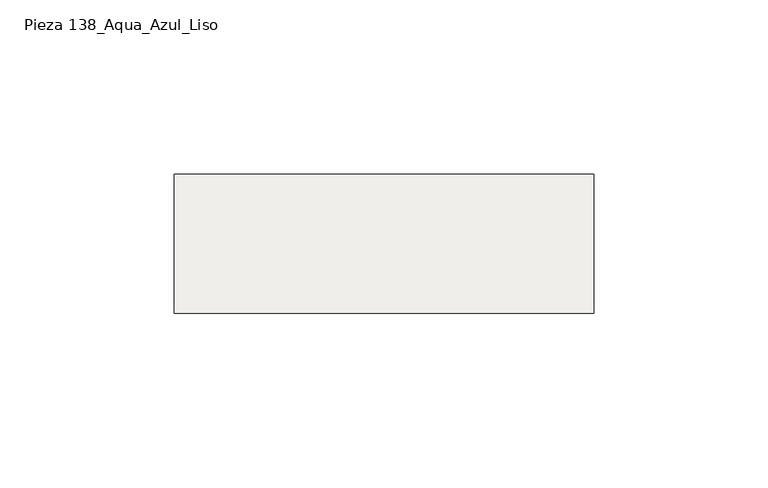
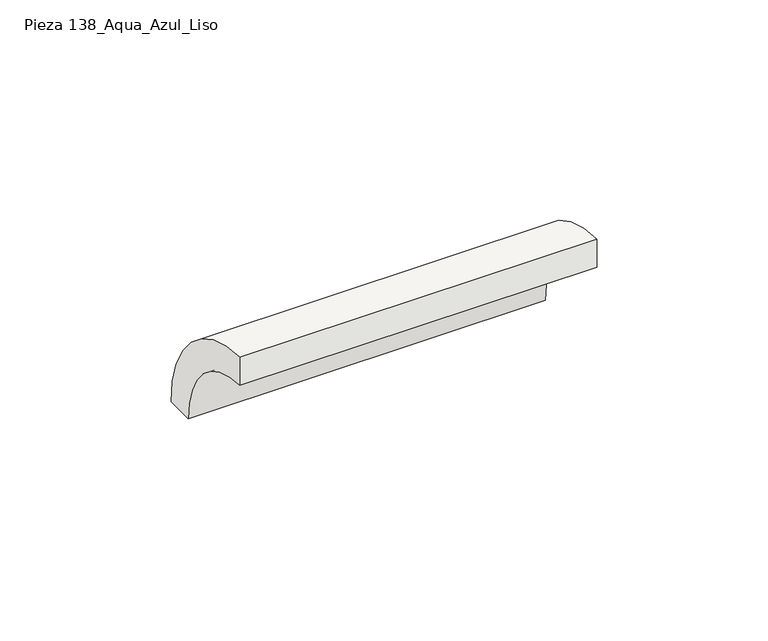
"""IFC4 building model written with IfcOpenShell, lengths in millimetres: slab geometry, ROSA GRES_138 : Pieza 138_Aqua_Azul_Liso."""

import ifcopenshell
import ifcopenshell.guid

model = None  # the IFC model being written
_history = None  # IfcOwnerHistory: only IFC2X3 demands one
_inside = {}  # id of a spatial element -> (the spatial element, [elements in it])
_under = {}  # id of a project, library or spatial element -> (it, [spatial elements below it])
_declared = {}  # id of a project -> (the project, [libraries it declares])
_typed = {}  # id of a type object -> (the type object, [elements of that type])
_made_of = {}  # id of a material, layer set ... -> (it, [elements and type objects made of it])


def new_model(schema):
    """Start an empty IFC model of exactly this schema.

    Asked for "IFC4X3", IfcOpenShell would pick the latest addendum, in which some entities
    have other attributes; the version numbers below select the first issue.
    IFC2X3 requires an IfcOwnerHistory on every rooted entity: one is made here for all.
    """
    global model, _history
    if schema == "IFC4X3":
        model = ifcopenshell.file(schema_version=(4, 3, 0, 0))
    else:
        model = ifcopenshell.file(schema=schema)
    _inside.clear()
    _under.clear()
    _declared.clear()
    _typed.clear()
    _made_of.clear()
    _history = None
    if model.schema == "IFC2X3":
        org = make("IfcOrganization", Name="unknown")
        user = make(
            "IfcPersonAndOrganization",
            ThePerson=make("IfcPerson", FamilyName="unknown"),
            TheOrganization=org,
        )
        app = make(
            "IfcApplication",
            ApplicationDeveloper=org,
            Version="unknown",
            ApplicationFullName="unknown",
            ApplicationIdentifier="unknown",
        )
        _history = make(
            "IfcOwnerHistory",
            OwningUser=user,
            OwningApplication=app,
            ChangeAction="ADDED",
            CreationDate=0,
        )
    return model


def make(cls, **values):
    """One entity of the class cls with the attributes given. An attribute that is None is left unset."""
    return model.create_entity(
        cls, **{name: value for name, value in values.items() if value is not None}
    )


def rooted(cls, **values):
    """An entity with a GlobalId (a new one), such as an element, a storey or a relation."""
    return make(cls, GlobalId=ifcopenshell.guid.new(), OwnerHistory=_history, **values)


def si_unit(unit_type, name, prefix=None):
    """IfcSIUnit, for example si_unit("LENGTHUNIT", "METRE", prefix="MILLI")."""
    return make("IfcSIUnit", UnitType=unit_type, Prefix=prefix, Name=name)


def assignment(units):
    """IfcUnitAssignment: the units of a project."""
    return None if units is None else make("IfcUnitAssignment", Units=units)


def point(xyz):
    """IfcCartesianPoint."""
    return None if xyz is None else make("IfcCartesianPoint", Coordinates=xyz)


def direction(xyz):
    """IfcDirection."""
    return None if xyz is None else make("IfcDirection", DirectionRatios=xyz)


def frame(location, z_axis=None, x_axis=None):
    """IfcAxis2Placement3D, a coordinate frame: its origin and axes. An axis left out is left unset."""
    return make(
        "IfcAxis2Placement3D",
        Location=point(location),
        Axis=direction(z_axis),
        RefDirection=direction(x_axis),
    )


def frame_2d(location, x_axis=None):
    """IfcAxis2Placement2D, a coordinate frame in the plane: its origin and x axis."""
    return make(
        "IfcAxis2Placement2D", Location=point(location), RefDirection=direction(x_axis)
    )


def origin():
    """The frame at (0, 0, 0) with its axes left unset."""
    return frame((0.0, 0.0, 0.0))


def origin_2d():
    """The frame at (0, 0) in the plane with its x axis left unset."""
    return frame_2d((0.0, 0.0))


def place(relative_to, where):
    """IfcLocalPlacement: puts the frame where relative to a parent placement (None: the world)."""
    return make(
        "IfcLocalPlacement", PlacementRelTo=relative_to, RelativePlacement=where
    )


def context(
    kind, dimensions, precision=None, world=None, true_north=None, identifier=None
):
    """IfcGeometricRepresentationContext, for example the 3D "Model" context."""
    return make(
        "IfcGeometricRepresentationContext",
        ContextIdentifier=identifier,
        ContextType=kind,
        CoordinateSpaceDimension=dimensions,
        Precision=precision,
        WorldCoordinateSystem=world,
        TrueNorth=true_north,
    )


def project(units=None, contexts=None):
    """IfcProject with its units and contexts."""
    return rooted(
        "IfcProject",
        Name="project",
        RepresentationContexts=contexts,
        UnitsInContext=assignment(units),
    )


def spatial(cls, under=None, at=None, **own):
    """A site, building, storey or space (cls), placed at a placement, below another one or the project."""
    s = rooted(cls, ObjectPlacement=at, **own)
    if under is not None:
        _under.setdefault(under.id(), (under, []))[1].append(s)
    return s


def polyline(points):
    """IfcPolyline through the points."""
    return make("IfcPolyline", Points=[point(p) for p in points])


def circle_curve(where, radius):
    """IfcCircle in the frame where."""
    return make("IfcCircle", Position=where, Radius=radius)


def trimmed(basis, trim1, trim2, sense, master):
    """IfcTrimmedCurve: the piece of a basis curve between two trims."""
    return make(
        "IfcTrimmedCurve",
        BasisCurve=basis,
        Trim1=trim1,
        Trim2=trim2,
        SenseAgreement=sense,
        MasterRepresentation=master,
    )


def segment(curve, same_sense, transition):
    """IfcCompositeCurveSegment."""
    return make(
        "IfcCompositeCurveSegment",
        Transition=transition,
        SameSense=same_sense,
        ParentCurve=curve,
    )


def composite_curve(segments, self_intersect=None):
    """IfcCompositeCurve: segments joined end to end."""
    return make("IfcCompositeCurve", Segments=segments, SelfIntersect=self_intersect)


def outline(outer, holes=None, kind="AREA"):
    """IfcArbitraryClosedProfileDef: a profile drawn as a closed curve; with holes, ...WithVoids."""
    if holes is None:
        return make("IfcArbitraryClosedProfileDef", ProfileType=kind, OuterCurve=outer)
    return make(
        "IfcArbitraryProfileDefWithVoids",
        ProfileType=kind,
        OuterCurve=outer,
        InnerCurves=holes,
    )


def extrude(swept, where, along, depth):
    """IfcExtrudedAreaSolid: the profile swept, set in the frame where, extruded along a direction by depth."""
    return make(
        "IfcExtrudedAreaSolid",
        SweptArea=swept,
        Position=where,
        ExtrudedDirection=direction(along),
        Depth=depth,
    )


def shape(context_of_items, identifier, shape_type, items):
    """IfcShapeRepresentation: the items that make up one representation, for example the "Body"."""
    return make(
        "IfcShapeRepresentation",
        ContextOfItems=context_of_items,
        RepresentationIdentifier=identifier,
        RepresentationType=shape_type,
        Items=items,
    )


def source(mapping_origin, context_of_items, identifier, shape_type, items):
    """IfcRepresentationMap: a shape defined once, which mapped items show again and again."""
    return make(
        "IfcRepresentationMap",
        MappingOrigin=mapping_origin,
        MappedRepresentation=shape(context_of_items, identifier, shape_type, items),
    )


def transform(
    local_origin,
    x_axis=None,
    y_axis=None,
    z_axis=None,
    scale=None,
    scale2=None,
    scale3=None,
    uniform=True,
):
    """IfcCartesianTransformationOperator3D, or its non-uniform kind. x_axis, y_axis, z_axis: its Axis1, 2, 3."""
    if uniform:
        return make(
            "IfcCartesianTransformationOperator3D",
            Axis1=direction(x_axis),
            Axis2=direction(y_axis),
            LocalOrigin=point(local_origin),
            Scale=scale,
            Axis3=direction(z_axis),
        )
    return make(
        "IfcCartesianTransformationOperator3DnonUniform",
        Axis1=direction(x_axis),
        Axis2=direction(y_axis),
        LocalOrigin=point(local_origin),
        Scale=scale,
        Axis3=direction(z_axis),
        Scale2=scale2,
        Scale3=scale3,
    )


def mapped(mapping_source, mapping_target):
    """IfcMappedItem: shows the shape of a source again, moved by a transform."""
    return make(
        "IfcMappedItem", MappingSource=mapping_source, MappingTarget=mapping_target
    )


def made_of(thing, what):
    """Note that an element or type object is made of a material, layer set ...; save() writes the relation."""
    if what is not None:
        _made_of.setdefault(what.id(), (what, []))[1].append(thing)
    return thing


def element(
    cls,
    number,
    at=None,
    inside=None,
    cuts=None,
    type_object=None,
    material=None,
    context=None,
    identifier="Body",
    shape_type=None,
    held_by="IfcProductDefinitionShape",
    body=None,
    shapes=None,
    **own,
):
    """One element of the class cls, such as IfcWall. Its Tag is "e" and its number.

    at: its placement. inside: the storey or other place that contains it. cuts: it is an
    opening in that element (IfcRelVoidsElement). A single representation is given by context,
    identifier, shape_type and body (its items); several are given by shapes. held_by: the class
    of the entity that holds the representations. save() writes the other relations.
    """
    e = rooted(cls, Tag="e%d" % number, ObjectPlacement=at, **own)
    if body is not None:
        shapes = [shape(context, identifier, shape_type, body)]
    if shapes is not None:
        e.Representation = make(held_by, Representations=shapes)
    if inside is not None:
        _inside.setdefault(inside.id(), (inside, []))[1].append(e)
    if cuts is not None:
        rooted(
            "IfcRelVoidsElement", RelatingBuildingElement=cuts, RelatedOpeningElement=e
        )
    if type_object is not None:
        _typed.setdefault(type_object.id(), (type_object, []))[1].append(e)
    return made_of(e, material)


def aggregate(whole, parts):
    """IfcRelAggregates: a whole, such as a stair, and the parts it consists of."""
    return rooted("IfcRelAggregates", RelatingObject=whole, RelatedObjects=parts)


def save(model, path):
    """Write the relations noted so far, then the file.

    IfcRelAggregates (storeys below a building ...), IfcRelContainedInSpatialStructure (elements
    in a storey), IfcRelDefinesByType, IfcRelAssociatesMaterial and IfcRelDeclares: one each for
    every whole, place, type object, material and project.
    """
    for whole, parts in _under.values():
        aggregate(whole, parts)
    for where, things in _inside.values():
        rooted(
            "IfcRelContainedInSpatialStructure",
            RelatedElements=things,
            RelatingStructure=where,
        )
    for kind, things in _typed.values():
        rooted("IfcRelDefinesByType", RelatedObjects=things, RelatingType=kind)
    for what, things in _made_of.values():
        rooted("IfcRelAssociatesMaterial", RelatedObjects=things, RelatingMaterial=what)
    for by, libraries in _declared.values():
        rooted("IfcRelDeclares", RelatingContext=by, RelatedDefinitions=libraries)
    model.write(path)


def pieza_138_aqua_azul_liso_8f6b2f5e(model_context):
    return source(origin(), model_context, "Body", "SweptSolid", [
        extrude(outline(composite_curve([segment(trimmed(circle_curve(origin_2d(), 40.0), [point((0.0, 40.0))], [point((40.0, 0.0))], False, "CARTESIAN"), True, "CONTINUOUS"), segment(polyline([(40.0, 0.0), (30.0265886, 0.0)]), True, "CONTINUOUS"), segment(trimmed(circle_curve(frame_2d((0.0044453, 0.0044453)), 30.0221435), [point((30.0265886, 0.0))], [point((0.0, 30.0265886))], True, "CARTESIAN"), True, "CONTINUOUS"), segment(polyline([(0.0, 30.0265886), (0.0, 40.0)]), True, "CONTINUOUS")], self_intersect=False)), frame((0.0, 0.0, 0.0), z_axis=(1.0, 0.0, 0.0), x_axis=(0.0, 1.0, 0.0)), (0.0, 0.0, 1.0), 120.5495682),
    ])


if __name__ == "__main__":
    model = new_model("IFC4")
    model_context = context("Model", 3, world=origin())
    ifc_project = project(units=[si_unit("LENGTHUNIT", "METRE", prefix="MILLI")], contexts=[model_context])
    site = spatial("IfcSite", under=ifc_project)
    building = spatial("IfcBuilding", under=site)
    placement = place(None, origin())
    pieza_138_aqua_azul_liso_shape = pieza_138_aqua_azul_liso_8f6b2f5e(model_context)
    element("IfcSlab", 1, ObjectType="ROSA GRES_138 : Pieza 138_Aqua_Azul_Liso", at=placement, inside=building, context=model_context, shape_type="MappedRepresentation", body=[
        mapped(pieza_138_aqua_azul_liso_shape, transform((0.0, 0.0, 0.0), x_axis=(1.0, 0.0, 0.0), y_axis=(0.0, 1.0, 0.0), z_axis=(0.0, 0.0, 1.0))),
    ])
    save(model, "model.ifc")
